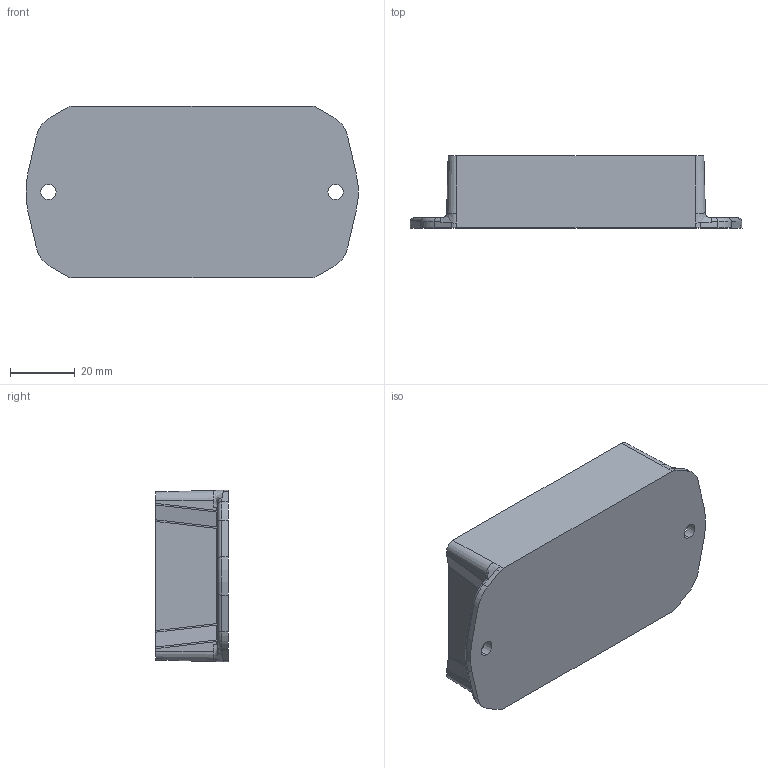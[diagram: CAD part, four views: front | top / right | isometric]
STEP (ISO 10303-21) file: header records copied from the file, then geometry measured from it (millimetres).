
FILE_DESCRIPTION (( 'STEP AP214' ), '1' );
FILE_NAME ('BX-2308BXX.STEP', '2010-11-03T20:20:59', ( 'Designer2010' ), ( '' ), 'SwSTEP 2.0', 'SolidWorks 2010', '' );
FILE_SCHEMA (( 'AUTOMOTIVE_DESIGN' ));
Length unit declared in the file: inch
Products named in the file (1): BX-2308BXX
Bounding box: 102.78 x 22.35 x 53.24 mm (x, y, z)
Volume: 22800.7 mm3; surface area: 20724.4 mm2
Topology: 1 solids, 1 shells, 103 faces, 304 edges, 204 vertices
Faces by surface type: cylinder 34, plane 29, cone 18, bspline 16, torus 6
Entity records: 11600 total; most frequent: CARTESIAN_POINT 9036, ORIENTED_EDGE 608, DIRECTION 442, EDGE_CURVE 304, VERTEX_POINT 204, AXIS2_PLACEMENT_3D 158, VECTOR 126, LINE 126
